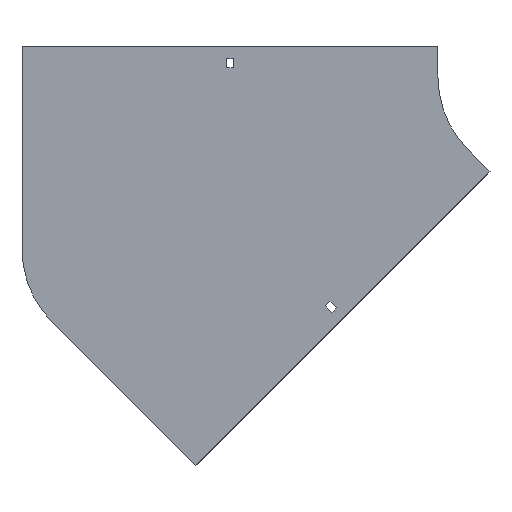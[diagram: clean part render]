
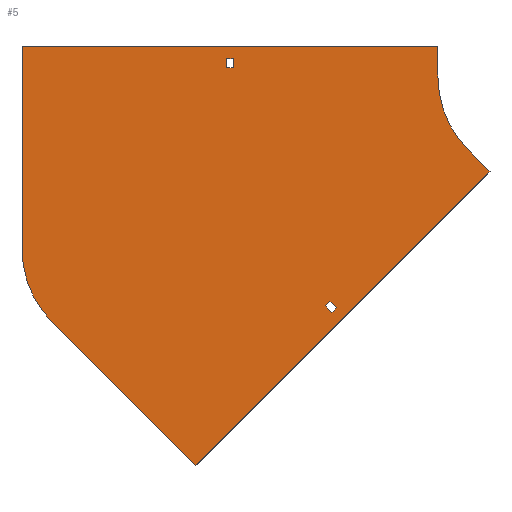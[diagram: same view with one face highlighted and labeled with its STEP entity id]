
A CAD part, front view. The second image highlights one B-rep face of the part: STEP entity #5.
In plain terms, the highlighted planar face has unit normal (0, -1, 0).
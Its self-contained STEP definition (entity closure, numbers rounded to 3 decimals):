
#5 = ADVANCED_FACE ( 'NONE', ( #167, #1140, #1244 ), #197, .T. ) ;
#18 = LINE ( 'NONE', #236, #81 ) ;
#27 = CARTESIAN_POINT ( 'NONE',  ( -209.48, 0., -222.208 ) ) ;
#34 = DIRECTION ( 'NONE',  ( 0., 0., -1. ) ) ;
#45 = ORIENTED_EDGE ( 'NONE', *, *, #1365, .F. ) ;
#60 = VERTEX_POINT ( 'NONE', #507 ) ;
#64 = EDGE_CURVE ( 'NONE', #524, #371, #1016, .T. ) ;
#81 = VECTOR ( 'NONE', #878, 1000. ) ;
#83 = DIRECTION ( 'NONE',  ( 0., 0., -1. ) ) ;
#102 = VECTOR ( 'NONE', #978, 1000. ) ;
#123 = DIRECTION ( 'NONE',  ( 0., 1., 0. ) ) ;
#124 = CARTESIAN_POINT ( 'NONE',  ( -209.48, 0., -222.208 ) ) ;
#132 = VERTEX_POINT ( 'NONE', #826 ) ;
#137 = LINE ( 'NONE', #1005, #511 ) ;
#140 = LINE ( 'NONE', #27, #1193 ) ;
#155 = EDGE_CURVE ( 'NONE', #224, #60, #589, .T. ) ;
#167 = FACE_BOUND ( 'NONE', #1054, .T. ) ;
#175 = ORIENTED_EDGE ( 'NONE', *, *, #1406, .F. ) ;
#197 = PLANE ( 'NONE',  #667 ) ;
#204 = ORIENTED_EDGE ( 'NONE', *, *, #1212, .F. ) ;
#211 = CARTESIAN_POINT ( 'NONE',  ( -298.75, 0., 9. ) ) ;
#224 = VERTEX_POINT ( 'NONE', #615 ) ;
#231 = DIRECTION ( 'NONE',  ( 0.707, 0., -0.707 ) ) ;
#234 = VECTOR ( 'NONE', #1092, 1000. ) ;
#236 = CARTESIAN_POINT ( 'NONE',  ( -70.711, 0., -70.711 ) ) ;
#239 = VECTOR ( 'NONE', #305, 1000. ) ;
#240 = ORIENTED_EDGE ( 'NONE', *, *, #842, .F. ) ;
#241 = CARTESIAN_POINT ( 'NONE',  ( -404., 0., -167.342 ) ) ;
#251 = VERTEX_POINT ( 'NONE', #1174 ) ;
#258 = AXIS2_PLACEMENT_3D ( 'NONE', #241, #123, #759 ) ;
#277 = DIRECTION ( 'NONE',  ( 1., 0., 0. ) ) ;
#285 = CARTESIAN_POINT ( 'NONE',  ( -198.52, 0., -223.976 ) ) ;
#286 = VECTOR ( 'NONE', #34, 1000. ) ;
#290 = VERTEX_POINT ( 'NONE', #1082 ) ;
#298 = CARTESIAN_POINT ( 'NONE',  ( -504., 0., -167.342 ) ) ;
#305 = DIRECTION ( 'NONE',  ( 0., 0., 1. ) ) ;
#312 = ORIENTED_EDGE ( 'NONE', *, *, #1064, .F. ) ;
#316 = VERTEX_POINT ( 'NONE', #976 ) ;
#329 = CIRCLE ( 'NONE', #258, 100. ) ;
#351 = ORIENTED_EDGE ( 'NONE', *, *, #155, .F. ) ;
#358 = LINE ( 'NONE', #1115, #286 ) ;
#362 = DIRECTION ( 'NONE',  ( 0., 0., -1. ) ) ;
#371 = VERTEX_POINT ( 'NONE', #989 ) ;
#373 = CARTESIAN_POINT ( 'NONE',  ( -70.711, 0., -70.711 ) ) ;
#380 = DIRECTION ( 'NONE',  ( -0.707, 0., -0.707 ) ) ;
#383 = DIRECTION ( 'NONE',  ( -0.707, 0., -0.707 ) ) ;
#388 = CARTESIAN_POINT ( 'NONE',  ( 0., 0., 0. ) ) ;
#397 = VERTEX_POINT ( 'NONE', #762 ) ;
#425 = VERTEX_POINT ( 'NONE', #916 ) ;
#426 = LINE ( 'NONE', #1302, #1143 ) ;
#433 = DIRECTION ( 'NONE',  ( 0., 0., -1. ) ) ;
#435 = ORIENTED_EDGE ( 'NONE', *, *, #1165, .F. ) ;
#438 = LINE ( 'NONE', #124, #1209 ) ;
#444 = ORIENTED_EDGE ( 'NONE', *, *, #1167, .F. ) ;
#466 = VERTEX_POINT ( 'NONE', #1030 ) ;
#485 = CARTESIAN_POINT ( 'NONE',  ( -305.25, 0., 9. ) ) ;
#507 = CARTESIAN_POINT ( 'NONE',  ( -335.169, 0., -377.595 ) ) ;
#511 = VECTOR ( 'NONE', #277, 1000. ) ;
#524 = VERTEX_POINT ( 'NONE', #881 ) ;
#540 = CARTESIAN_POINT ( 'NONE',  ( -335.169, 0., -377.595 ) ) ;
#578 = ORIENTED_EDGE ( 'NONE', *, *, #1296, .F. ) ;
#589 = LINE ( 'NONE', #1024, #1190 ) ;
#615 = CARTESIAN_POINT ( 'NONE',  ( -49.497, 0., -91.924 ) ) ;
#617 = CARTESIAN_POINT ( 'NONE',  ( 0., 0., 0. ) ) ;
#621 = VECTOR ( 'NONE', #1197, 1000. ) ;
#625 = EDGE_LOOP ( 'NONE', ( #444, #1096, #45, #240 ) ) ;
#638 = ORIENTED_EDGE ( 'NONE', *, *, #1037, .T. ) ;
#651 = VERTEX_POINT ( 'NONE', #285 ) ;
#667 = AXIS2_PLACEMENT_3D ( 'NONE', #617, #1056, #83 ) ;
#671 = LINE ( 'NONE', #1402, #621 ) ;
#705 = DIRECTION ( 'NONE',  ( -1., 0., 0. ) ) ;
#708 = EDGE_CURVE ( 'NONE', #397, #466, #438, .T. ) ;
#734 = VECTOR ( 'NONE', #705, 1000. ) ;
#736 = EDGE_CURVE ( 'NONE', #60, #822, #847, .T. ) ;
#746 = ORIENTED_EDGE ( 'NONE', *, *, #64, .T. ) ;
#759 = DIRECTION ( 'NONE',  ( 0., 0., 1. ) ) ;
#762 = CARTESIAN_POINT ( 'NONE',  ( -209.48, 0., -222.208 ) ) ;
#784 = CARTESIAN_POINT ( 'NONE',  ( -305.25, 0., 9. ) ) ;
#809 = EDGE_CURVE ( 'NONE', #425, #290, #1307, .T. ) ;
#822 = VERTEX_POINT ( 'NONE', #860 ) ;
#826 = CARTESIAN_POINT ( 'NONE',  ( -504., 0., -167.342 ) ) ;
#842 = EDGE_CURVE ( 'NONE', #651, #251, #426, .T. ) ;
#847 = LINE ( 'NONE', #540, #234 ) ;
#859 = CARTESIAN_POINT ( 'NONE',  ( -203.116, 0., -228.572 ) ) ;
#860 = CARTESIAN_POINT ( 'NONE',  ( -474.711, 0., -238.053 ) ) ;
#878 = DIRECTION ( 'NONE',  ( 0.707, 0., -0.707 ) ) ;
#881 = CARTESIAN_POINT ( 'NONE',  ( -305.25, 0., 9. ) ) ;
#882 = VECTOR ( 'NONE', #433, 1000. ) ;
#916 = CARTESIAN_POINT ( 'NONE',  ( -298.75, 0., 18. ) ) ;
#918 = CARTESIAN_POINT ( 'NONE',  ( -100., 0., 0. ) ) ;
#976 = CARTESIAN_POINT ( 'NONE',  ( -100., 0., 30. ) ) ;
#978 = DIRECTION ( 'NONE',  ( 0.707, 0., 0.707 ) ) ;
#989 = CARTESIAN_POINT ( 'NONE',  ( -305.25, 0., 18. ) ) ;
#991 = LINE ( 'NONE', #859, #102 ) ;
#1001 = EDGE_CURVE ( 'NONE', #290, #524, #1144, .T. ) ;
#1005 = CARTESIAN_POINT ( 'NONE',  ( -305.25, 0., 18. ) ) ;
#1008 = CARTESIAN_POINT ( 'NONE',  ( -504., 0., 30. ) ) ;
#1013 = ORIENTED_EDGE ( 'NONE', *, *, #1199, .F. ) ;
#1016 = LINE ( 'NONE', #485, #1368 ) ;
#1024 = CARTESIAN_POINT ( 'NONE',  ( -49.497, 0., -91.924 ) ) ;
#1030 = CARTESIAN_POINT ( 'NONE',  ( -203.116, 0., -228.572 ) ) ;
#1034 = VERTEX_POINT ( 'NONE', #918 ) ;
#1037 = EDGE_CURVE ( 'NONE', #371, #425, #137, .T. ) ;
#1050 = ORIENTED_EDGE ( 'NONE', *, *, #809, .T. ) ;
#1054 = EDGE_LOOP ( 'NONE', ( #746, #638, #1050, #1295 ) ) ;
#1056 = DIRECTION ( 'NONE',  ( 0., -1., 0. ) ) ;
#1057 = AXIS2_PLACEMENT_3D ( 'NONE', #388, #1242, #362 ) ;
#1064 = EDGE_CURVE ( 'NONE', #1034, #1348, #1099, .T. ) ;
#1082 = CARTESIAN_POINT ( 'NONE',  ( -298.75, 0., 9. ) ) ;
#1092 = DIRECTION ( 'NONE',  ( -0.707, 0., 0.707 ) ) ;
#1096 = ORIENTED_EDGE ( 'NONE', *, *, #708, .F. ) ;
#1099 = CIRCLE ( 'NONE', #1057, 100. ) ;
#1115 = CARTESIAN_POINT ( 'NONE',  ( -100., 0., 30. ) ) ;
#1140 = FACE_OUTER_BOUND ( 'NONE', #1407, .T. ) ;
#1143 = VECTOR ( 'NONE', #1177, 1000. ) ;
#1144 = LINE ( 'NONE', #784, #734 ) ;
#1163 = LINE ( 'NONE', #298, #239 ) ;
#1165 = EDGE_CURVE ( 'NONE', #822, #132, #329, .T. ) ;
#1167 = EDGE_CURVE ( 'NONE', #466, #651, #991, .T. ) ;
#1174 = CARTESIAN_POINT ( 'NONE',  ( -204.884, 0., -217.612 ) ) ;
#1177 = DIRECTION ( 'NONE',  ( -0.707, 0., 0.707 ) ) ;
#1190 = VECTOR ( 'NONE', #380, 1000. ) ;
#1193 = VECTOR ( 'NONE', #383, 1000. ) ;
#1197 = DIRECTION ( 'NONE',  ( 1., 0., 0. ) ) ;
#1199 = EDGE_CURVE ( 'NONE', #1348, #224, #18, .T. ) ;
#1209 = VECTOR ( 'NONE', #231, 1000. ) ;
#1212 = EDGE_CURVE ( 'NONE', #1391, #316, #671, .T. ) ;
#1221 = ORIENTED_EDGE ( 'NONE', *, *, #736, .F. ) ;
#1242 = DIRECTION ( 'NONE',  ( 0., -1., 0. ) ) ;
#1244 = FACE_BOUND ( 'NONE', #625, .T. ) ;
#1267 = DIRECTION ( 'NONE',  ( 0., 0., 1. ) ) ;
#1295 = ORIENTED_EDGE ( 'NONE', *, *, #1001, .T. ) ;
#1296 = EDGE_CURVE ( 'NONE', #316, #1034, #358, .T. ) ;
#1302 = CARTESIAN_POINT ( 'NONE',  ( -204.884, 0., -217.612 ) ) ;
#1307 = LINE ( 'NONE', #211, #882 ) ;
#1348 = VERTEX_POINT ( 'NONE', #373 ) ;
#1365 = EDGE_CURVE ( 'NONE', #251, #397, #140, .T. ) ;
#1368 = VECTOR ( 'NONE', #1267, 1000. ) ;
#1391 = VERTEX_POINT ( 'NONE', #1008 ) ;
#1402 = CARTESIAN_POINT ( 'NONE',  ( -504., 0., 30. ) ) ;
#1406 = EDGE_CURVE ( 'NONE', #132, #1391, #1163, .T. ) ;
#1407 = EDGE_LOOP ( 'NONE', ( #204, #175, #435, #1221, #351, #1013, #312, #578 ) ) ;
